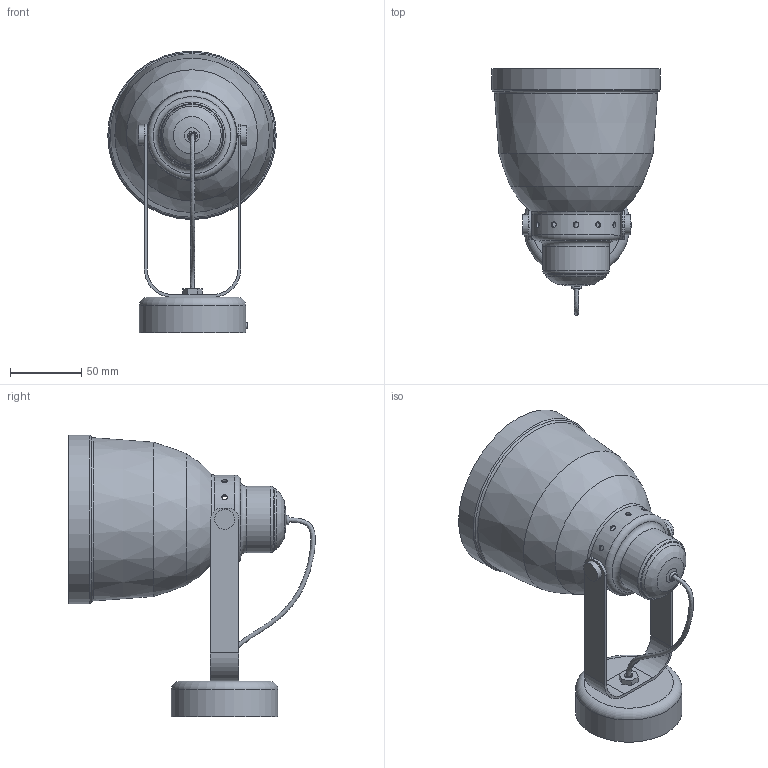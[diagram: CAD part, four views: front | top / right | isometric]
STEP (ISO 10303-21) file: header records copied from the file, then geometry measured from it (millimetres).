
FILE_DESCRIPTION(/* description */ (''),/* implementation_level */ '2;1');
FILE_NAME(/* name */ 'C:\Users\Dominika\Desktop\Modele CZARNY\T15\KINKIET T15.stp',/* time_stamp */ '2019-12-05T20:17:02+01:00',/* author */ ('Dominika'),/* organization */ (''),/* preprocessor_version */ 'ST-DEVELOPER v17',/* originating_system */ 'Autodesk Inventor 2019',/* authorisation */ '');
FILE_SCHEMA (('AUTOMOTIVE_DESIGN { 1 0 10303 214 3 1 1 }'));
Length unit declared in the file: millimetre
Products named in the file (10): KINKIET T15; T14 mocowanie do ściany; T14 mocowanie klosza; t14 nakretka; T14 tulejka; T14 nakretka II; T15 kabel IV; sruba; klosz II; T15 klosy aktualnz godz 1
Assembly tree (10 placements, depth 2):
  KINKIET T15
    T14 mocowanie do ściany
    T14 mocowanie klosza
    T14 nakretka II  x2
    t14 nakretka
    T14 tulejka
    T15 kabel IV
    sruba
    klosz II
    T15 klosy aktualnz godz 1
Bounding box: 118.56 x 173.48 x 198.28 mm (x, y, z)
Volume: 401483.1 mm3; surface area: 147648.5 mm2
Topology: 10 solids, 10 shells, 115 faces, 322 edges, 226 vertices
Faces by surface type: plane 41, cylinder 40, torus 20, bspline 13, sphere 1
Full cylindrical faces by diameter (mm): 2.5 x1, 3.9 x12, 4 x3, 5 x2, 6 x1, 8 x2, 14 x2, 37.982 x1, 43.679 x1, 46.799 x1, 59.28 x1, 62.4 x1, 71 x1, 75 x1, 115.44 x1, 118.56 x1
Entity records: 5577 total; most frequent: CARTESIAN_POINT 2122, DIRECTION 659, ORIENTED_EDGE 630, EDGE_CURVE 315, AXIS2_PLACEMENT_3D 283, VERTEX_POINT 224, CIRCLE 164, EDGE_LOOP 153
